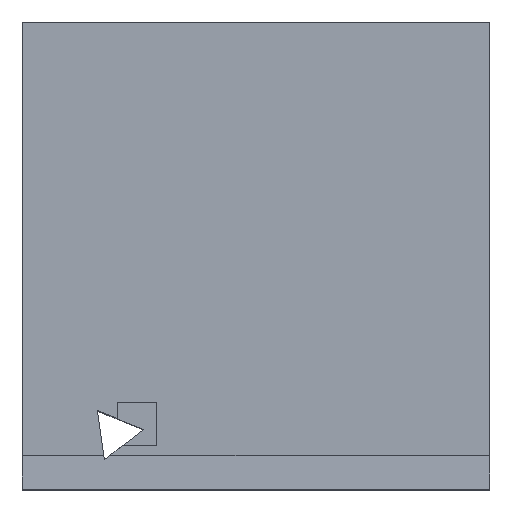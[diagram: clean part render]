
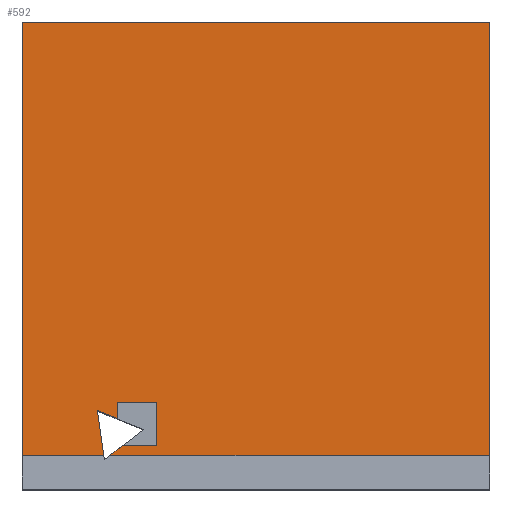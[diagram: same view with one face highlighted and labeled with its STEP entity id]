
A CAD part, top view. The second image highlights one B-rep face of the part: STEP entity #592.
In plain terms, the highlighted planar face has unit normal (0, 0, 1).
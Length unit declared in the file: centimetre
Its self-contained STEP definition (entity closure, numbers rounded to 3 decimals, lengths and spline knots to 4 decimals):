
#16 = CARTESIAN_POINT ( 'NONE',  ( 0., 1000., 1000. ) ) ;
#35 = EDGE_CURVE ( 'NONE', #532, #505, #814, .T. ) ;
#105 = ORIENTED_EDGE ( 'NONE', *, *, #367, .T. ) ;
#124 = VECTOR ( 'NONE', #1441, 100. ) ;
#148 = CARTESIAN_POINT ( 'NONE',  ( 160.5653, 168.5333, 1000. ) ) ;
#170 = CARTESIAN_POINT ( 'NONE',  ( 0., 72.1469, 1000. ) ) ;
#171 = VECTOR ( 'NONE', #1954, 100. ) ;
#200 = CARTESIAN_POINT ( 'NONE',  ( 203.4934, 185.9996, 1000. ) ) ;
#212 = VERTEX_POINT ( 'NONE', #1032 ) ;
#233 = VECTOR ( 'NONE', #601, 100. ) ;
#249 = EDGE_LOOP ( 'NONE', ( #800, #1889, #1645, #525, #295, #105, #1393, #1300, #1936, #270, #1579, #1737 ) ) ;
#254 = DIRECTION ( 'NONE',  ( -1., 0., 0. ) ) ;
#270 = ORIENTED_EDGE ( 'NONE', *, *, #1679, .T. ) ;
#284 = CARTESIAN_POINT ( 'NONE',  ( 0., 1000., 1000. ) ) ;
#295 = ORIENTED_EDGE ( 'NONE', *, *, #1493, .F. ) ;
#325 = LINE ( 'NONE', #148, #1413 ) ;
#328 = LINE ( 'NONE', #1316, #171 ) ;
#367 = EDGE_CURVE ( 'NONE', #1810, #2068, #1134, .T. ) ;
#446 = EDGE_CURVE ( 'NONE', #1661, #1328, #981, .T. ) ;
#453 = VERTEX_POINT ( 'NONE', #284 ) ;
#505 = VERTEX_POINT ( 'NONE', #1607 ) ;
#525 = ORIENTED_EDGE ( 'NONE', *, *, #1194, .F. ) ;
#532 = VERTEX_POINT ( 'NONE', #1641 ) ;
#535 = VERTEX_POINT ( 'NONE', #1652 ) ;
#553 = DIRECTION ( 'NONE',  ( 0., 1., 0. ) ) ;
#555 = EDGE_CURVE ( 'NONE', #786, #1263, #1847, .T. ) ;
#563 = LINE ( 'NONE', #16, #1697 ) ;
#572 = CARTESIAN_POINT ( 'NONE',  ( 213.8769, 93.2431, 1000. ) ) ;
#592 = ADVANCED_FACE ( 'NONE', ( #1984 ), #1159, .T. ) ;
#601 = DIRECTION ( 'NONE',  ( 0.927, -0.375, 0. ) ) ;
#620 = CARTESIAN_POINT ( 'NONE',  ( 203.4934, 151.1752, 1000. ) ) ;
#676 = DIRECTION ( 'NONE',  ( 0., 1., 0. ) ) ;
#723 = CARTESIAN_POINT ( 'NONE',  ( 160.5653, 168.5333, 1000. ) ) ;
#749 = CARTESIAN_POINT ( 'NONE',  ( 186.8594, 72.1469, 1000. ) ) ;
#786 = VERTEX_POINT ( 'NONE', #1575 ) ;
#800 = ORIENTED_EDGE ( 'NONE', *, *, #446, .T. ) ;
#811 = CARTESIAN_POINT ( 'NONE',  ( 203.4934, 93.2431, 1000. ) ) ;
#814 = LINE ( 'NONE', #951, #124 ) ;
#874 = LINE ( 'NONE', #1344, #909 ) ;
#909 = VECTOR ( 'NONE', #553, 100. ) ;
#922 = CARTESIAN_POINT ( 'NONE',  ( 0., 1000., 1000. ) ) ;
#951 = CARTESIAN_POINT ( 'NONE',  ( 0., 72.1469, 1000. ) ) ;
#981 = LINE ( 'NONE', #1259, #233 ) ;
#989 = EDGE_CURVE ( 'NONE', #1097, #1328, #328, .T. ) ;
#1011 = CARTESIAN_POINT ( 'NONE',  ( 0., 0., 1000. ) ) ;
#1032 = CARTESIAN_POINT ( 'NONE',  ( 287.6246, 185.9996, 1000. ) ) ;
#1047 = DIRECTION ( 'NONE',  ( 0., -1., 0. ) ) ;
#1075 = VECTOR ( 'NONE', #254, 100. ) ;
#1097 = VERTEX_POINT ( 'NONE', #2033 ) ;
#1134 = LINE ( 'NONE', #1420, #1138 ) ;
#1136 = DIRECTION ( 'NONE',  ( -0.139, 0.99, 0. ) ) ;
#1138 = VECTOR ( 'NONE', #1783, 100. ) ;
#1159 = PLANE ( 'NONE',  #1171 ) ;
#1171 = AXIS2_PLACEMENT_3D ( 'NONE', #1011, #1672, #1818 ) ;
#1180 = VECTOR ( 'NONE', #2010, 100. ) ;
#1194 = EDGE_CURVE ( 'NONE', #535, #212, #874, .T. ) ;
#1259 = CARTESIAN_POINT ( 'NONE',  ( 259.2145, 128.6442, 1000. ) ) ;
#1263 = VERTEX_POINT ( 'NONE', #2065 ) ;
#1300 = ORIENTED_EDGE ( 'NONE', *, *, #555, .T. ) ;
#1316 = CARTESIAN_POINT ( 'NONE',  ( 203.4934, 93.2431, 1000. ) ) ;
#1328 = VERTEX_POINT ( 'NONE', #620 ) ;
#1342 = LINE ( 'NONE', #200, #1180 ) ;
#1344 = CARTESIAN_POINT ( 'NONE',  ( 287.6246, 93.2431, 1000. ) ) ;
#1359 = CARTESIAN_POINT ( 'NONE',  ( 1000., 1000., 1000. ) ) ;
#1393 = ORIENTED_EDGE ( 'NONE', *, *, #1613, .F. ) ;
#1413 = VECTOR ( 'NONE', #1136, 100. ) ;
#1420 = CARTESIAN_POINT ( 'NONE',  ( 175.3449, 63.156, 1000. ) ) ;
#1441 = DIRECTION ( 'NONE',  ( -1., 0., 0. ) ) ;
#1485 = LINE ( 'NONE', #811, #1927 ) ;
#1493 = EDGE_CURVE ( 'NONE', #1810, #535, #1485, .T. ) ;
#1566 = LINE ( 'NONE', #922, #1075 ) ;
#1575 = CARTESIAN_POINT ( 'NONE',  ( 1000., 72.1469, 1000. ) ) ;
#1579 = ORIENTED_EDGE ( 'NONE', *, *, #35, .F. ) ;
#1582 = VECTOR ( 'NONE', #1952, 100. ) ;
#1607 = CARTESIAN_POINT ( 'NONE',  ( 0., 72.1469, 1000. ) ) ;
#1613 = EDGE_CURVE ( 'NONE', #786, #2068, #1657, .T. ) ;
#1641 = CARTESIAN_POINT ( 'NONE',  ( 174.0839, 72.1469, 1000. ) ) ;
#1645 = ORIENTED_EDGE ( 'NONE', *, *, #1746, .F. ) ;
#1652 = CARTESIAN_POINT ( 'NONE',  ( 287.6246, 93.2431, 1000. ) ) ;
#1657 = LINE ( 'NONE', #170, #1582 ) ;
#1661 = VERTEX_POINT ( 'NONE', #723 ) ;
#1672 = DIRECTION ( 'NONE',  ( 0., 0., 1. ) ) ;
#1679 = EDGE_CURVE ( 'NONE', #453, #505, #563, .T. ) ;
#1697 = VECTOR ( 'NONE', #1047, 100. ) ;
#1737 = ORIENTED_EDGE ( 'NONE', *, *, #2043, .T. ) ;
#1746 = EDGE_CURVE ( 'NONE', #212, #1097, #1342, .T. ) ;
#1783 = DIRECTION ( 'NONE',  ( -0.788, -0.615, 0. ) ) ;
#1810 = VERTEX_POINT ( 'NONE', #572 ) ;
#1818 = DIRECTION ( 'NONE',  ( 1., 0., 0. ) ) ;
#1820 = DIRECTION ( 'NONE',  ( 1., 0., 0. ) ) ;
#1843 = EDGE_CURVE ( 'NONE', #1263, #453, #1566, .T. ) ;
#1847 = LINE ( 'NONE', #1359, #2106 ) ;
#1889 = ORIENTED_EDGE ( 'NONE', *, *, #989, .F. ) ;
#1927 = VECTOR ( 'NONE', #1820, 100. ) ;
#1936 = ORIENTED_EDGE ( 'NONE', *, *, #1843, .T. ) ;
#1952 = DIRECTION ( 'NONE',  ( -1., 0., 0. ) ) ;
#1954 = DIRECTION ( 'NONE',  ( 0., -1., 0. ) ) ;
#1984 = FACE_OUTER_BOUND ( 'NONE', #249, .T. ) ;
#2010 = DIRECTION ( 'NONE',  ( -1., 0., 0. ) ) ;
#2033 = CARTESIAN_POINT ( 'NONE',  ( 203.4934, 185.9996, 1000. ) ) ;
#2043 = EDGE_CURVE ( 'NONE', #532, #1661, #325, .T. ) ;
#2065 = CARTESIAN_POINT ( 'NONE',  ( 1000., 1000., 1000. ) ) ;
#2068 = VERTEX_POINT ( 'NONE', #749 ) ;
#2106 = VECTOR ( 'NONE', #676, 100. ) ;
